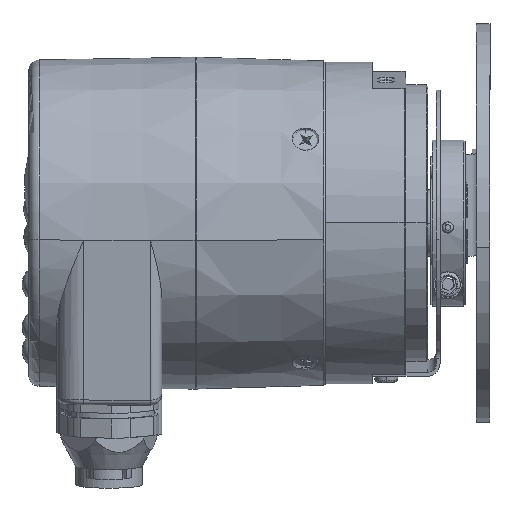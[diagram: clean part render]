
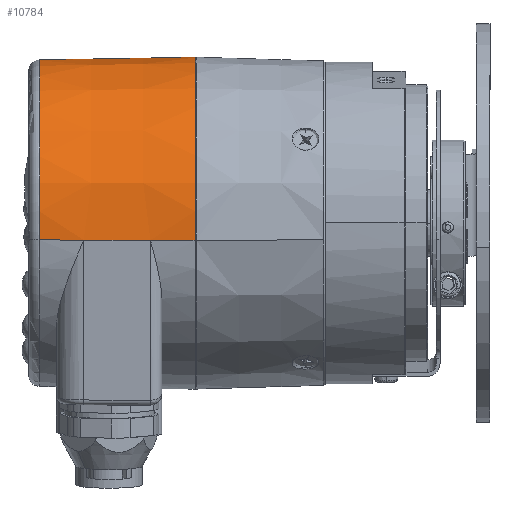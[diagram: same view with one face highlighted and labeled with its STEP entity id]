
A CAD part, top view. The second image highlights one B-rep face of the part: STEP entity #10784.
In plain terms, the highlighted conical face has half-angle 1 degrees and reference radius 30 mm.
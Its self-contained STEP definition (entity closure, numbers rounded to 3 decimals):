
#3643 = CONICAL_SURFACE ( 'NONE', #3707, 30., 0.017 ) ;
#3644 = CARTESIAN_POINT ( 'NONE',  ( -44.035, 0., 0. ) ) ;
#3645 = CARTESIAN_POINT ( 'NONE',  ( -16., 0., 0. ) ) ;
#3660 = FACE_OUTER_BOUND ( 'NONE', #10785, .T. ) ;
#3681 = DIRECTION ( 'NONE',  ( 1., 0.002, -0.017 ) ) ;
#3682 = VECTOR ( 'NONE', #3681, 1000. ) ;
#3683 = CARTESIAN_POINT ( 'NONE',  ( -16., 3.136, -29.836 ) ) ;
#3684 = LINE ( 'NONE', #3683, #3682 ) ;
#3686 = CARTESIAN_POINT ( 'NONE',  ( -36.087, 3.099, -29.487 ) ) ;
#3687 = DIRECTION ( 'NONE',  ( 1., 0.002, -0.017 ) ) ;
#3688 = VECTOR ( 'NONE', #3687, 1000. ) ;
#3689 = CARTESIAN_POINT ( 'NONE',  ( -16.523, 3.135, -29.827 ) ) ;
#3690 = LINE ( 'NONE', #3689, #3688 ) ;
#3691 = DIRECTION ( 'NONE',  ( 1., 0.002, -0.017 ) ) ;
#3692 = VECTOR ( 'NONE', #3691, 1000. ) ;
#3693 = CARTESIAN_POINT ( 'NONE',  ( -16., 3.136, -29.836 ) ) ;
#3694 = LINE ( 'NONE', #3693, #3692 ) ;
#3699 = CARTESIAN_POINT ( 'NONE',  ( -44.035, -3.085, 29.349 ) ) ;
#3700 = CARTESIAN_POINT ( 'NONE',  ( -44.035, 3.085, -29.349 ) ) ;
#3701 = DIRECTION ( 'NONE',  ( 0., -0.105, 0.995 ) ) ;
#3702 = DIRECTION ( 'NONE',  ( 1., 0., 0. ) ) ;
#3703 = AXIS2_PLACEMENT_3D ( 'NONE', #3644, #3702, #3701 ) ;
#3704 = CIRCLE ( 'NONE', #3703, 29.511 ) ;
#3705 = DIRECTION ( 'NONE',  ( 0., 0.105, -0.995 ) ) ;
#3706 = DIRECTION ( 'NONE',  ( 1., 0., 0. ) ) ;
#3707 = AXIS2_PLACEMENT_3D ( 'NONE', #3645, #3706, #3705 ) ;
#3790 = CARTESIAN_POINT ( 'NONE',  ( -36.087, -3.099, 29.487 ) ) ;
#3791 = DIRECTION ( 'NONE',  ( 1., -0.002, 0.017 ) ) ;
#3792 = VECTOR ( 'NONE', #3791, 1000. ) ;
#3793 = CARTESIAN_POINT ( 'NONE',  ( -16., -3.136, 29.836 ) ) ;
#3794 = LINE ( 'NONE', #3793, #3792 ) ;
#3796 = CARTESIAN_POINT ( 'NONE',  ( -24.035, 3.121, -29.696 ) ) ;
#3797 = CARTESIAN_POINT ( 'NONE',  ( -16., 3.136, -29.836 ) ) ;
#3798 = DIRECTION ( 'NONE',  ( 0., 0.105, -0.995 ) ) ;
#3799 = DIRECTION ( 'NONE',  ( 1., 0., 0. ) ) ;
#3800 = CARTESIAN_POINT ( 'NONE',  ( -16., 0., 0. ) ) ;
#3801 = AXIS2_PLACEMENT_3D ( 'NONE', #3800, #3799, #3798 ) ;
#3802 = CIRCLE ( 'NONE', #3801, 30. ) ;
#3804 = CARTESIAN_POINT ( 'NONE',  ( -16., -3.136, 29.836 ) ) ;
#3805 = DIRECTION ( 'NONE',  ( 1., -0.002, 0.017 ) ) ;
#3806 = VECTOR ( 'NONE', #3805, 1000. ) ;
#3807 = CARTESIAN_POINT ( 'NONE',  ( -16., -3.136, 29.836 ) ) ;
#3812 = LINE ( 'NONE', #3807, #3806 ) ;
#4080 = CARTESIAN_POINT ( 'NONE',  ( -24.035, -3.121, 29.696 ) ) ;
#4081 = DIRECTION ( 'NONE',  ( 1., -0.002, 0.017 ) ) ;
#4082 = VECTOR ( 'NONE', #4081, 1000. ) ;
#4083 = CARTESIAN_POINT ( 'NONE',  ( -16.523, -3.135, 29.827 ) ) ;
#4084 = LINE ( 'NONE', #4083, #4082 ) ;
#10784 = ADVANCED_FACE ( 'NONE', ( #3660 ), #3643, .T. ) ;
#10785 = EDGE_LOOP ( 'NONE', ( #10786, #10830, #10833, #10911, #10826, #10792, #10794, #10797 ) ) ;
#10786 = ORIENTED_EDGE ( 'NONE', *, *, #10787, .T. ) ;
#10787 = EDGE_CURVE ( 'NONE', #10788, #10789, #3704, .T. ) ;
#10788 = VERTEX_POINT ( 'NONE', #3700 ) ;
#10789 = VERTEX_POINT ( 'NONE', #3699 ) ;
#10792 = ORIENTED_EDGE ( 'NONE', *, *, #10793, .F. ) ;
#10793 = EDGE_CURVE ( 'NONE', #10829, #10828, #3694, .T. ) ;
#10794 = ORIENTED_EDGE ( 'NONE', *, *, #10795, .F. ) ;
#10795 = EDGE_CURVE ( 'NONE', #10796, #10829, #3690, .T. ) ;
#10796 = VERTEX_POINT ( 'NONE', #3686 ) ;
#10797 = ORIENTED_EDGE ( 'NONE', *, *, #10798, .F. ) ;
#10798 = EDGE_CURVE ( 'NONE', #10788, #10796, #3684, .T. ) ;
#10822 = EDGE_CURVE ( 'NONE', #10910, #10823, #3812, .T. ) ;
#10823 = VERTEX_POINT ( 'NONE', #3804 ) ;
#10826 = ORIENTED_EDGE ( 'NONE', *, *, #10827, .F. ) ;
#10827 = EDGE_CURVE ( 'NONE', #10828, #10823, #3802, .T. ) ;
#10828 = VERTEX_POINT ( 'NONE', #3797 ) ;
#10829 = VERTEX_POINT ( 'NONE', #3796 ) ;
#10830 = ORIENTED_EDGE ( 'NONE', *, *, #10831, .T. ) ;
#10831 = EDGE_CURVE ( 'NONE', #10789, #10832, #3794, .T. ) ;
#10832 = VERTEX_POINT ( 'NONE', #3790 ) ;
#10833 = ORIENTED_EDGE ( 'NONE', *, *, #10909, .T. ) ;
#10909 = EDGE_CURVE ( 'NONE', #10832, #10910, #4084, .T. ) ;
#10910 = VERTEX_POINT ( 'NONE', #4080 ) ;
#10911 = ORIENTED_EDGE ( 'NONE', *, *, #10822, .T. ) ;
